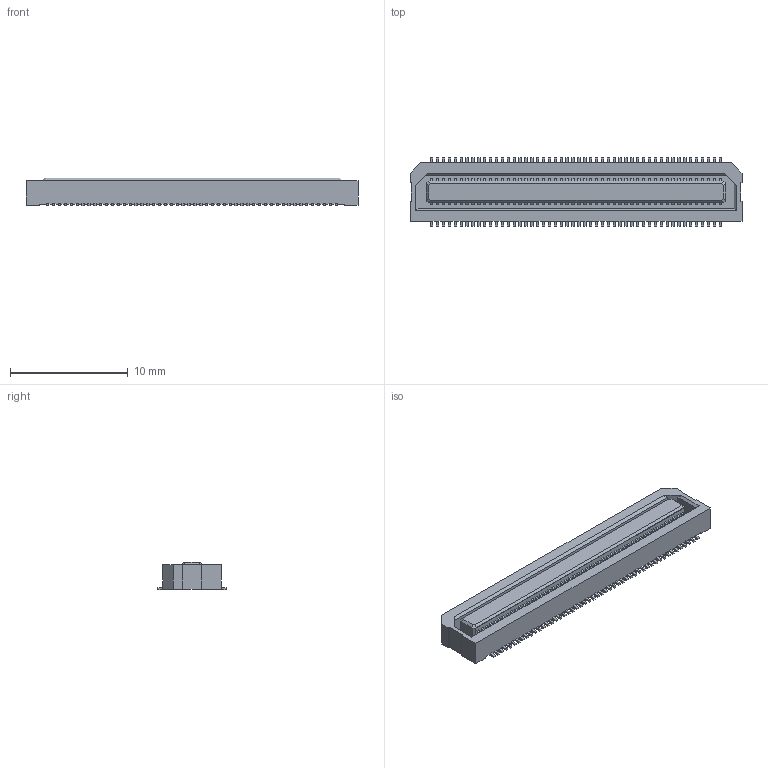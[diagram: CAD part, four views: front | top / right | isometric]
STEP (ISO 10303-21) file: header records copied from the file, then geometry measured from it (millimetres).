
FILE_DESCRIPTION (( 'STEP AP214' ), '1' );
FILE_NAME ('AXK500137YG.STEP', '2025-06-12T15:40:03', ( '' ), ( '' ), 'SwSTEP 2.0', 'SolidWorks 2020', '' );
FILE_SCHEMA (( 'AUTOMOTIVE_DESIGN' ));
Length unit declared in the file: millimetre
Products named in the file (1): AXK500137YG
Bounding box: 28.2 x 5.8 x 2.35 mm (x, y, z)
Volume: 247.6 mm3; surface area: 652.1 mm2
Topology: 1 solids, 1 shells, 1350 faces, 4036 edges, 2690 vertices
Faces by surface type: plane 850, cylinder 500
Entity records: 60732 total; most frequent: CARTESIAN_POINT 8089, ORIENTED_EDGE 8072, DIRECTION 7734, EDGE_CURVE 4036, VECTOR 3032, LINE 3032, VERTEX_POINT 2690, AXIS2_PLACEMENT_3D 2351
